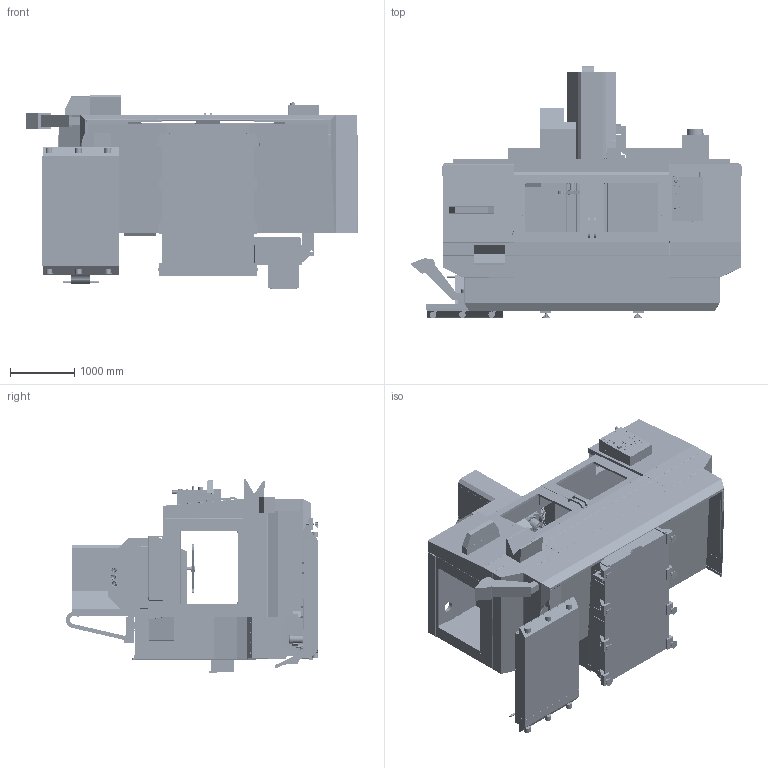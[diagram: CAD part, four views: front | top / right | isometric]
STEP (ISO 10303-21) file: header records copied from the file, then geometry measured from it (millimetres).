
FILE_DESCRIPTION (( 'STEP AP214' ), '1' );
FILE_NAME ('VF-7_50_EXTENDED Z CLEARANCE_STEP_2_2022.STEP', '2022-02-11T20:41:17', ( '' ), ( '' ), 'SwSTEP 2.0', 'SolidWorks 2021', '' );
FILE_SCHEMA (( 'AUTOMOTIVE_DESIGN' ));
Length unit declared in the file: inch
Products named in the file (55): 95-GAL COOLANT TANK_VF-7_50_2_2022; TABLE _VF-7_50_2_2022; 32-6042 FRONT PANEL ASSY MILL SST FREE HANG_defeature^10000057196_Pendant_Common; ECABIN; AUTOMATIC AIR GUN_VF-7_50_2_2022; BACK PANEL-SMTC; 30-SMTC ARM  LOW _VF-7_50_2_2022; 10000010572_defeature; BOTTOM_VF-Y_ENCLOSURE; VF-7_50_EXTENDED Z CLEARANCE_STEP_2_2022; CONV-PACKAGE_VF-7_50_2_2022; PENDANT AND STORAGE_VF-7_50_2_2022; PULSEJET SYSTEM; ENCLOSURE-BOTTOM_VF-7_50_2_2022; 30-SMTC-VF-7-50T; 10000010592-vf-7_50T_defeature; 10000118647; SADDLE_VF-7_50_2_2022; 95-Gal Coolant Tank; ENCLOSURE EXHAUST SYSTEM; HAAS-P-COOL; 30-SMTC ARM  HIGH _VF-7_50_2_2022; CABCOOL_VF-7_50_2_2022; Group3^PULSEJET SYSTEM; CABCOOL; ENCLOSURE-TOP_VF-7_50_2_2022; 10000057196_Pendant_Common_32-6042 FRONT PANEL ASSY MILL SST FREE HANG_defeature; 10000020245_VF-7_02_2022; Pads_DF; AUTOMATIC-AIR-GUN; PADS_VF-7_50_2_2022; 10000008953_VF-7_02_2022_defeature; 8in EXTENDED Z-AXIS CLEARANCE_VF-7_50_2_2022; 30-SMTC_VF-7_50_2_2022; 50T Spindle_37-4212; 10000008935_VF-7_02_2022_defeature; 37-2247 VF-7 -40T_defeature^10000010943_COMMON; Group4^PULSEJET SYSTEM; PULSEJET SYSTEM _VF-7_50_2_2022; 30T-ARM-VF-7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
Assembly tree (62 placements, depth 5):
  VF-7_50_EXTENDED Z CLEARANCE_STEP_2_2022
    BASE_VF-7_50_2_2022
      10000008935_VF-7_02_2022_defeature
    COLUMN_VF-7_50_2_2022
      10000008953_VF-7_02_2022_defeature
    SPINDLE HEAD_VF-7_50_2_2022
      10000010592-vf-7_50T_defeature
      50T Spindle_37-4212
    SADDLE_VF-7_50_2_2022
      10000009025_VF-7_02_2022_defeature
    TABLE _VF-7_50_2_2022
      10000010572_defeature
    ENCLOSURE-TOP_VF-7_50_2_2022
      TOP_VF-Y_ENCLOSURE
      10000020245_VF-7_02_2022
      10000118647
      ECABIN
      BACK PANEL-SMTC
    8in EXTENDED Z-AXIS CLEARANCE_VF-7_50_2_2022
      10000010943_COMMON_37-2247 VF-7 -40T_defeature
        37-2247 VF-7 -40T_defeature^10000010943_COMMON
    ENCLOSURE-BOTTOM_VF-7_50_2_2022
      BOTTOM_VF-Y_ENCLOSURE
    PADS_VF-7_50_2_2022
      Pads_DF  x8
    PENDANT AND STORAGE_VF-7_50_2_2022
      PENDANT AND STORAGE
        PENDANT STORAGE
        10000057196_Pendant_Common_32-6042 FRONT PANEL ASSY MILL SST FREE HANG_defeature
          32-6042 FRONT PANEL ASSY MILL SST FREE HANG_defeature^10000057196_Pendant_Common
    95-GAL COOLANT TANK_VF-7_50_2_2022
      95-Gal Coolant Tank
    CABCOOL_VF-7_50_2_2022
      CABCOOL
    PROGRAMMABLE AIR _VF-7_50_2_2022
      PROGRAMMABLE AIR
    AUTOMATIC AIR GUN_VF-7_50_2_2022
      AUTOMATIC-AIR-GUN
    P-COOL_VF-7_50_2_2022
      HAAS-P-COOL
    ENCLOSURE EXHAUST SYSTEM_VF-7_50_2_2022
      ENCLOSURE EXHAUST SYSTEM
    PULSEJET SYSTEM _VF-7_50_2_2022
      PULSEJET SYSTEM
        Group3^PULSEJET SYSTEM
        Group4^PULSEJET SYSTEM
    30-SMTC_VF-7_50_2_2022
      30-SMTC-VF-7-50T
    30-SMTC ARM  HIGH _VF-7_50_2_2022
      30T-ARM-VF-7
    CHIP CHUTE_VF-7_50_2_2022
      10000095056_defeature
    CONV-PACKAGE_VF-7_50_2_2022
      CONV-PKG-VF-7
    30-SMTC ARM  LOW _VF-7_50_2_2022
      30T-ARM-VF-7
Bounding box: 5169.32 x 3929.42 x 3010.85 mm (x, y, z)
Volume: 5277952274 mm3; surface area: 184758180 mm2
Topology: 44 solids, 130 shells, 19771 faces, 52953 edges, 33778 vertices
Faces by surface type: plane 11236, cylinder 5161, bspline 1688, cone 1417, torus 204, sphere 65
Entity records: 869389 total; most frequent: CARTESIAN_POINT 172969, ORIENTED_EDGE 101706, DIRECTION 90473, EDGE_CURVE 50853, VECTOR 33201, LINE 33201, VERTEX_POINT 32751, AXIS2_PLACEMENT_3D 28636
